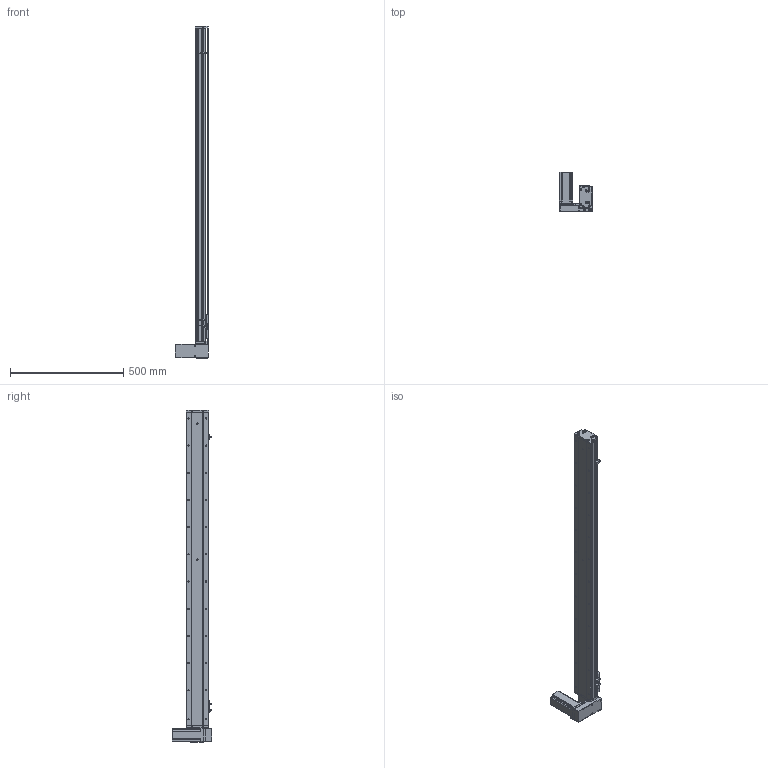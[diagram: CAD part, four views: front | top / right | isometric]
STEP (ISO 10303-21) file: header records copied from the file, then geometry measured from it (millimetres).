
FILE_DESCRIPTION (( 'STEP AP214' ), '1' );
FILE_NAME ('KSD100B-S1200-MRD-CM.STEP', '2019-10-16T08:07:12', ( '微软用户' ), ( '微软中国' ), 'SwSTEP 2.0', 'SolidWorks 2014', '' );
FILE_SCHEMA (( 'AUTOMOTIVE_DESIGN' ));
Length unit declared in the file: millimetre
Products named in the file (12): 100宽马达安装板同步带右; 100宽同步带安装板半封闭; 100宽马达安装板同步带; 100遵傷啣肮祭湍; 100宽底板半封闭同步带1200行程; KSD100B-S1200-MRD-CM; 悵誘欶奻狟殏; 100宽马达安装板连板上下折丝杆同步带; 台达ECMA－C20604AS伺服电机; U倰嫖萇EEㄜSX672; 覜茼え100遵圉猾敕; 100宽防尘板1200行程-同步带
Assembly tree (13 placements, depth 2):
  KSD100B-S1200-MRD-CM
    100宽底板半封闭同步带1200行程
    100遵傷啣肮祭湍
    100宽马达安装板同步带
    100宽同步带安装板半封闭
    100宽马达安装板同步带右
    100宽防尘板1200行程-同步带
    覜茼え100遵圉猾敕
    U倰嫖萇EEㄜSX672  x3
    台达ECMA－C20604AS伺服电机
    100宽马达安装板连板上下折丝杆同步带
    悵誘欶奻狟殏
Bounding box: 148 x 174.7 x 1465 mm (x, y, z)
Volume: 3231312.7 mm3; surface area: 1084338.1 mm2
Topology: 14 solids, 14 shells, 1529 faces, 4316 edges, 2737 vertices
Faces by surface type: cylinder 779, plane 599, cone 151
Entity records: 55001 total; most frequent: CARTESIAN_POINT 11210, DIRECTION 7500, ORIENTED_EDGE 7236, EDGE_CURVE 3618, AXIS2_PLACEMENT_3D 2749, VERTEX_POINT 2361, VECTOR 2002, LINE 2002
